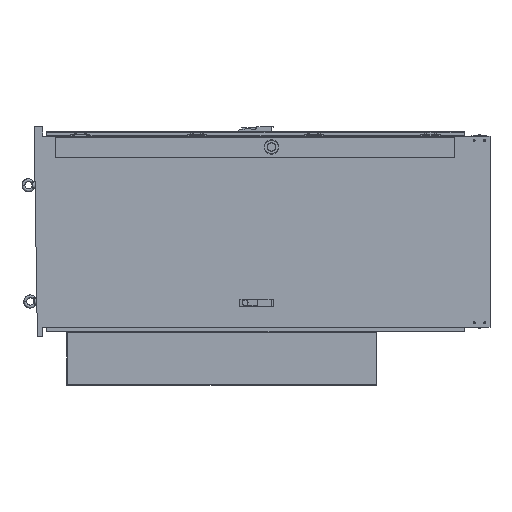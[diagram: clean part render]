
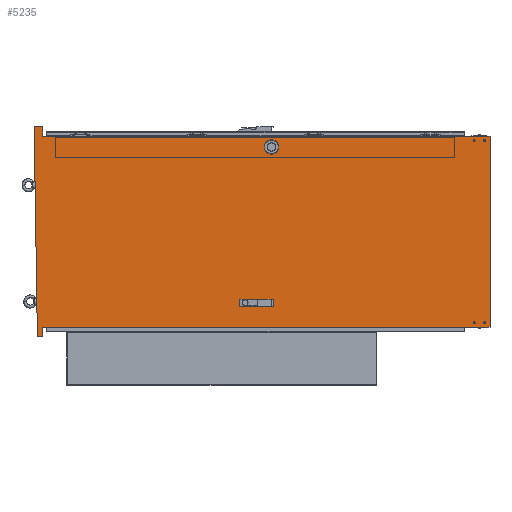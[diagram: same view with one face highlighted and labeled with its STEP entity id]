
A CAD part, left-side view. The second image highlights one B-rep face of the part: STEP entity #5235.
In plain terms, the highlighted planar face has unit normal (-1, 0, 0).
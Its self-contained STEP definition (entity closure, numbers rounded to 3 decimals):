
#71=DIRECTION('',(0.,0.,1.));
#72=VECTOR('',#71,900.);
#73=CARTESIAN_POINT('',(4.3,0.,45.));
#74=LINE('',#73,#72);
#148=DIRECTION('',(0.,-1.,0.));
#149=VECTOR('',#148,2108.498);
#150=CARTESIAN_POINT('',(4.3,2108.498,45.));
#151=LINE('',#150,#149);
#246=CARTESIAN_POINT('',(4.3,1030.,894.25));
#247=DIRECTION('',(-1.,0.,0.));
#248=DIRECTION('',(0.,0.,-1.));
#249=AXIS2_PLACEMENT_3D('',#246,#247,#248);
#254=CARTESIAN_POINT('',(4.3,1030.,894.25));
#255=DIRECTION('',(-1.,0.,0.));
#256=DIRECTION('',(0.,0.,1.));
#257=AXIS2_PLACEMENT_3D('',#254,#255,#256);
#262=DIRECTION('',(0.,1.,0.));
#263=VECTOR('',#262,155.601);
#264=CARTESIAN_POINT('',(4.3,1026.819,143.3));
#265=LINE('',#264,#263);
#269=DIRECTION('',(0.,0.,-1.));
#270=VECTOR('',#269,33.9);
#271=CARTESIAN_POINT('',(4.3,1026.819,177.2));
#272=LINE('',#271,#270);
#276=DIRECTION('',(0.,1.,0.));
#277=VECTOR('',#276,155.601);
#278=CARTESIAN_POINT('',(4.3,1026.819,177.2));
#279=LINE('',#278,#277);
#283=DIRECTION('',(0.,0.,-1.));
#284=VECTOR('',#283,33.9);
#285=CARTESIAN_POINT('',(4.3,1182.42,177.2));
#286=LINE('',#285,#284);
#790=DIRECTION('',(0.,0.,-1.));
#791=VECTOR('',#790,45.);
#792=CARTESIAN_POINT('',(4.3,2108.498,45.));
#793=LINE('',#792,#791);
#1063=DIRECTION('',(0.,1.,0.));
#1064=VECTOR('',#1063,2108.458);
#1065=CARTESIAN_POINT('',(4.3,0.,945.));
#1066=LINE('',#1065,#1064);
#1308=DIRECTION('',(0.,0.,-1.));
#1309=VECTOR('',#1308,45.);
#1310=CARTESIAN_POINT('',(4.3,2108.458,990.));
#1311=LINE('',#1310,#1309);
#1322=DIRECTION('',(0.,1.,0.));
#1323=VECTOR('',#1322,39.996);
#1324=CARTESIAN_POINT('',(4.3,2108.458,990.));
#1325=LINE('',#1324,#1323);
#1350=DIRECTION('',(0.,0.,1.));
#1351=VECTOR('',#1350,3.023);
#1352=CARTESIAN_POINT('',(4.3,2148.454,986.977));
#1353=LINE('',#1352,#1351);
#1371=DIRECTION('',(0.,-0.015,-1.));
#1372=VECTOR('',#1371,987.091);
#1373=CARTESIAN_POINT('',(4.3,2148.454,986.977));
#1374=LINE('',#1373,#1372);
#1385=DIRECTION('',(0.,1.,0.));
#1386=VECTOR('',#1385,25.);
#1387=CARTESIAN_POINT('',(4.3,2108.5,0.));
#1388=LINE('',#1387,#1386);
#4725=CARTESIAN_POINT('',(4.3,2108.5,0.));
#4726=CARTESIAN_POINT('',(4.3,2133.5,
0.));
#4727=VERTEX_POINT('',#4725);
#4728=VERTEX_POINT('',#4726);
#4729=CARTESIAN_POINT('',(4.3,2108.458,990.));
#4730=CARTESIAN_POINT('',(4.3,2148.454,990.));
#4731=VERTEX_POINT('',#4729);
#4732=VERTEX_POINT('',#4730);
#4733=CARTESIAN_POINT('',(4.3,2148.454,986.977));
#4734=VERTEX_POINT('',#4733);
#4735=CARTESIAN_POINT('',(4.3,2108.458,945.));
#4736=VERTEX_POINT('',#4735);
#4737=CARTESIAN_POINT('',(4.3,2108.498,45.));
#4738=VERTEX_POINT('',#4737);
#4745=CARTESIAN_POINT('',(4.3,0.,945.));
#4747=VERTEX_POINT('',#4745);
#4769=CARTESIAN_POINT('',(4.3,1030.,861.75));
#4770=CARTESIAN_POINT('',(4.3,1030.,926.75));
#4771=VERTEX_POINT('',#4769);
#4772=VERTEX_POINT('',#4770);
#4919=CARTESIAN_POINT('',(4.3,1026.819,143.3));
#4920=CARTESIAN_POINT('',(4.3,1182.42,143.3));
#4921=VERTEX_POINT('',#4919);
#4922=VERTEX_POINT('',#4920);
#4923=CARTESIAN_POINT('',(4.3,1026.819,177.2));
#4924=CARTESIAN_POINT('',(4.3,1182.42,177.2));
#4925=VERTEX_POINT('',#4923);
#4926=VERTEX_POINT('',#4924);
#5029=CARTESIAN_POINT('',(4.3,0.,45.));
#5031=VERTEX_POINT('',#5029);
#5196=CARTESIAN_POINT('',(4.3,0.,0.));
#5197=DIRECTION('',(1.,0.,0.));
#5198=DIRECTION('',(0.,0.,1.));
#5199=AXIS2_PLACEMENT_3D('',#5196,#5197,#5198);
#5200=PLANE('',#5199);
#5201=ORIENTED_EDGE('',*,*,#5146,.F.);
#5203=ORIENTED_EDGE('',*,*,#5202,.T.);
#5205=ORIENTED_EDGE('',*,*,#5204,.T.);
#5207=ORIENTED_EDGE('',*,*,#5206,.F.);
#5209=ORIENTED_EDGE('',*,*,#5208,.T.);
#5211=ORIENTED_EDGE('',*,*,#5210,.F.);
#5213=ORIENTED_EDGE('',*,*,#5212,.T.);
#5215=ORIENTED_EDGE('',*,*,#5214,.F.);
#5216=ORIENTED_EDGE('',*,*,#5112,.F.);
#5217=EDGE_LOOP('',(#5201,#5203,#5205,#5207,#5209,#5211,#5213,#5215,#5216));
#5218=FACE_OUTER_BOUND('',#5217,.F.);
#5220=ORIENTED_EDGE('',*,*,#5219,.F.);
#5222=ORIENTED_EDGE('',*,*,#5221,.F.);
#5224=ORIENTED_EDGE('',*,*,#5223,.T.);
#5226=ORIENTED_EDGE('',*,*,#5225,.T.);
#5227=EDGE_LOOP('',(#5220,#5222,#5224,#5226));
#5228=FACE_BOUND('',#5227,.F.);
#5230=ORIENTED_EDGE('',*,*,#5229,.T.);
#5232=ORIENTED_EDGE('',*,*,#5231,.T.);
#5233=EDGE_LOOP('',(#5230,#5232));
#5234=FACE_BOUND('',#5233,.F.);
#250=CIRCLE('',#249,32.5);
#258=CIRCLE('',#257,32.5);
#5112=EDGE_CURVE('',#5031,#4747,#74,.T.);
#5146=EDGE_CURVE('',#4738,#5031,#151,.T.);
#5202=EDGE_CURVE('',#4738,#4727,#793,.T.);
#5204=EDGE_CURVE('',#4727,#4728,#1388,.T.);
#5206=EDGE_CURVE('',#4734,#4728,#1374,.T.);
#5208=EDGE_CURVE('',#4734,#4732,#1353,.T.);
#5210=EDGE_CURVE('',#4731,#4732,#1325,.T.);
#5212=EDGE_CURVE('',#4731,#4736,#1311,.T.);
#5214=EDGE_CURVE('',#4747,#4736,#1066,.T.);
#5219=EDGE_CURVE('',#4921,#4922,#265,.T.);
#5221=EDGE_CURVE('',#4925,#4921,#272,.T.);
#5223=EDGE_CURVE('',#4925,#4926,#279,.T.);
#5225=EDGE_CURVE('',#4926,#4922,#286,.T.);
#5229=EDGE_CURVE('',#4771,#4772,#250,.T.);
#5231=EDGE_CURVE('',#4772,#4771,#258,.T.);
#5235=ADVANCED_FACE('',(#5218,#5228,#5234),#5200,.F.);
